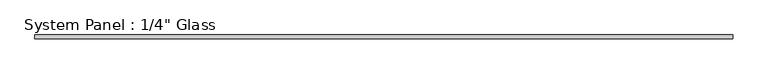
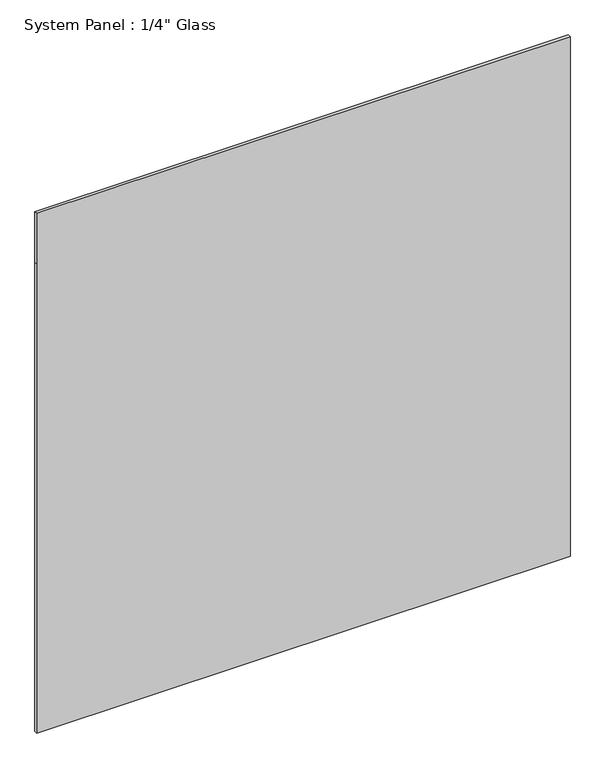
"""IFC4 building model written with IfcOpenShell, lengths in millimetres: plate geometry."""

from ifc_helpers import new_model, si_unit, frame, origin, place, context, project, spatial, polyline, outline, extrude, source, transform, mapped, element, save


def plate_08a7df39(model_context):
    return source(origin(), model_context, "Body", "SweptSolid", [
        extrude(outline(polyline([(0.0, -600.3538389), (0.0, 600.3538389), (1116.4405973, 600.3538389), (1237.0923678, 600.3538389), (1237.0923678, -600.3538389), (1116.4405973, -600.3538389), (0.0, -600.3538389)])), frame((0.0, -3.175, 0.0), z_axis=(0.0, 1.0, 0.0), x_axis=(0.0, 0.0, 1.0)), (0.0, 0.0, 1.0), 6.35),
    ])


if __name__ == "__main__":
    model = new_model("IFC4")
    model_context = context("Model", 3, world=origin())
    ifc_project = project(units=[si_unit("LENGTHUNIT", "METRE", prefix="MILLI")], contexts=[model_context])
    site = spatial("IfcSite", under=ifc_project)
    building = spatial("IfcBuilding", under=site)
    placement = place(None, origin())
    plate_shape = plate_08a7df39(model_context)
    element("IfcPlate", 1, ObjectType="System Panel : 1/4\" Glass", at=placement, inside=building, context=model_context, shape_type="MappedRepresentation", body=[
        mapped(plate_shape, transform((0.0, 0.0, 0.0), x_axis=(1.0, 0.0, 0.0), y_axis=(0.0, 1.0, 0.0), z_axis=(0.0, 0.0, 1.0))),
    ])
    save(model, "model.ifc")
